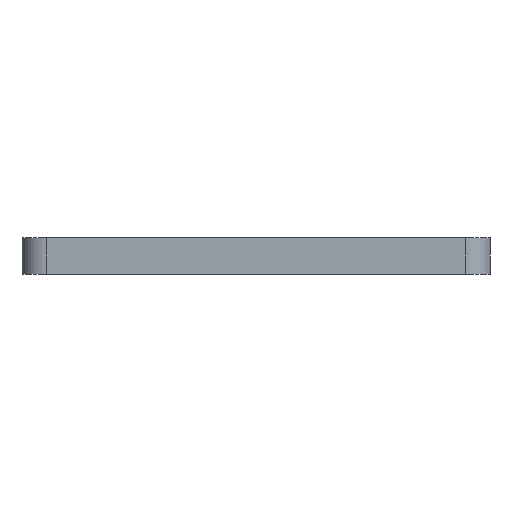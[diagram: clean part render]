
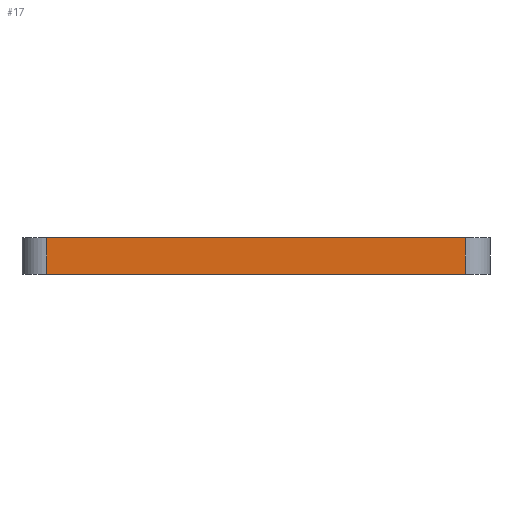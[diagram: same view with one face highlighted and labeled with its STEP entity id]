
A CAD part, left-side view. The second image highlights one B-rep face of the part: STEP entity #17.
In plain terms, the highlighted planar face has unit normal (-1, 0, 0).
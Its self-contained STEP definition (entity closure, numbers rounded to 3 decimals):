
#17 = ADVANCED_FACE('',(#18),#32,.F.);
#18 = FACE_BOUND('',#19,.F.);
#19 = EDGE_LOOP('',(#20,#55,#83,#111));
#20 = ORIENTED_EDGE('',*,*,#21,.F.);
#21 = EDGE_CURVE('',#22,#24,#26,.T.);
#22 = VERTEX_POINT('',#23);
#23 = CARTESIAN_POINT('',(-24.,-17.,3.));
#24 = VERTEX_POINT('',#25);
#25 = CARTESIAN_POINT('',(-24.,17.,3.));
#26 = SURFACE_CURVE('',#27,(#31,#43),.PCURVE_S1.);
#27 = LINE('',#28,#29);
#28 = CARTESIAN_POINT('',(-24.,-19.,3.));
#29 = VECTOR('',#30,1.);
#30 = DIRECTION('',(0.,1.,0.));
#31 = PCURVE('',#32,#37);
#32 = PLANE('',#33);
#33 = AXIS2_PLACEMENT_3D('',#34,#35,#36);
#34 = CARTESIAN_POINT('',(-24.,-19.,0.));
#35 = DIRECTION('',(1.,0.,0.));
#36 = DIRECTION('',(0.,0.,1.));
#37 = DEFINITIONAL_REPRESENTATION('',(#38),#42);
#38 = LINE('',#39,#40);
#39 = CARTESIAN_POINT('',(3.,0.));
#40 = VECTOR('',#41,1.);
#41 = DIRECTION('',(0.,-1.));
#42 = ( GEOMETRIC_REPRESENTATION_CONTEXT(2) 
PARAMETRIC_REPRESENTATION_CONTEXT() REPRESENTATION_CONTEXT('2D SPACE',''
  ) );
#43 = PCURVE('',#44,#49);
#44 = PLANE('',#45);
#45 = AXIS2_PLACEMENT_3D('',#46,#47,#48);
#46 = CARTESIAN_POINT('',(-24.,-19.,3.));
#47 = DIRECTION('',(0.,0.,1.));
#48 = DIRECTION('',(1.,0.,0.));
#49 = DEFINITIONAL_REPRESENTATION('',(#50),#54);
#50 = LINE('',#51,#52);
#51 = CARTESIAN_POINT('',(0.,0.));
#52 = VECTOR('',#53,1.);
#53 = DIRECTION('',(0.,1.));
#54 = ( GEOMETRIC_REPRESENTATION_CONTEXT(2) 
PARAMETRIC_REPRESENTATION_CONTEXT() REPRESENTATION_CONTEXT('2D SPACE',''
  ) );
#55 = ORIENTED_EDGE('',*,*,#56,.F.);
#56 = EDGE_CURVE('',#57,#22,#59,.T.);
#57 = VERTEX_POINT('',#58);
#58 = CARTESIAN_POINT('',(-24.,-17.,0.));
#59 = SURFACE_CURVE('',#60,(#64,#71),.PCURVE_S1.);
#60 = LINE('',#61,#62);
#61 = CARTESIAN_POINT('',(-24.,-17.,0.));
#62 = VECTOR('',#63,1.);
#63 = DIRECTION('',(0.,0.,1.));
#64 = PCURVE('',#32,#65);
#65 = DEFINITIONAL_REPRESENTATION('',(#66),#70);
#66 = LINE('',#67,#68);
#67 = CARTESIAN_POINT('',(0.,-2.));
#68 = VECTOR('',#69,1.);
#69 = DIRECTION('',(1.,0.));
#70 = ( GEOMETRIC_REPRESENTATION_CONTEXT(2) 
PARAMETRIC_REPRESENTATION_CONTEXT() REPRESENTATION_CONTEXT('2D SPACE',''
  ) );
#71 = PCURVE('',#72,#77);
#72 = CYLINDRICAL_SURFACE('',#73,2.);
#73 = AXIS2_PLACEMENT_3D('',#74,#75,#76);
#74 = CARTESIAN_POINT('',(-22.,-17.,0.));
#75 = DIRECTION('',(0.,0.,1.));
#76 = DIRECTION('',(-1.,-0.,0.));
#77 = DEFINITIONAL_REPRESENTATION('',(#78),#82);
#78 = LINE('',#79,#80);
#79 = CARTESIAN_POINT('',(0.,0.));
#80 = VECTOR('',#81,1.);
#81 = DIRECTION('',(0.,1.));
#82 = ( GEOMETRIC_REPRESENTATION_CONTEXT(2) 
PARAMETRIC_REPRESENTATION_CONTEXT() REPRESENTATION_CONTEXT('2D SPACE',''
  ) );
#83 = ORIENTED_EDGE('',*,*,#84,.T.);
#84 = EDGE_CURVE('',#57,#85,#87,.T.);
#85 = VERTEX_POINT('',#86);
#86 = CARTESIAN_POINT('',(-24.,17.,0.));
#87 = SURFACE_CURVE('',#88,(#92,#99),.PCURVE_S1.);
#88 = LINE('',#89,#90);
#89 = CARTESIAN_POINT('',(-24.,-19.,0.));
#90 = VECTOR('',#91,1.);
#91 = DIRECTION('',(0.,1.,0.));
#92 = PCURVE('',#32,#93);
#93 = DEFINITIONAL_REPRESENTATION('',(#94),#98);
#94 = LINE('',#95,#96);
#95 = CARTESIAN_POINT('',(0.,0.));
#96 = VECTOR('',#97,1.);
#97 = DIRECTION('',(0.,-1.));
#98 = ( GEOMETRIC_REPRESENTATION_CONTEXT(2) 
PARAMETRIC_REPRESENTATION_CONTEXT() REPRESENTATION_CONTEXT('2D SPACE',''
  ) );
#99 = PCURVE('',#100,#105);
#100 = PLANE('',#101);
#101 = AXIS2_PLACEMENT_3D('',#102,#103,#104);
#102 = CARTESIAN_POINT('',(-24.,-19.,0.));
#103 = DIRECTION('',(0.,0.,1.));
#104 = DIRECTION('',(1.,0.,0.));
#105 = DEFINITIONAL_REPRESENTATION('',(#106),#110);
#106 = LINE('',#107,#108);
#107 = CARTESIAN_POINT('',(0.,0.));
#108 = VECTOR('',#109,1.);
#109 = DIRECTION('',(0.,1.));
#110 = ( GEOMETRIC_REPRESENTATION_CONTEXT(2) 
PARAMETRIC_REPRESENTATION_CONTEXT() REPRESENTATION_CONTEXT('2D SPACE',''
  ) );
#111 = ORIENTED_EDGE('',*,*,#112,.T.);
#112 = EDGE_CURVE('',#85,#24,#113,.T.);
#113 = SURFACE_CURVE('',#114,(#118,#125),.PCURVE_S1.);
#114 = LINE('',#115,#116);
#115 = CARTESIAN_POINT('',(-24.,17.,0.));
#116 = VECTOR('',#117,1.);
#117 = DIRECTION('',(0.,0.,1.));
#118 = PCURVE('',#32,#119);
#119 = DEFINITIONAL_REPRESENTATION('',(#120),#124);
#120 = LINE('',#121,#122);
#121 = CARTESIAN_POINT('',(0.,-36.));
#122 = VECTOR('',#123,1.);
#123 = DIRECTION('',(1.,0.));
#124 = ( GEOMETRIC_REPRESENTATION_CONTEXT(2) 
PARAMETRIC_REPRESENTATION_CONTEXT() REPRESENTATION_CONTEXT('2D SPACE',''
  ) );
#125 = PCURVE('',#126,#131);
#126 = CYLINDRICAL_SURFACE('',#127,2.);
#127 = AXIS2_PLACEMENT_3D('',#128,#129,#130);
#128 = CARTESIAN_POINT('',(-22.,17.,0.));
#129 = DIRECTION('',(0.,0.,1.));
#130 = DIRECTION('',(-1.,-0.,0.));
#131 = DEFINITIONAL_REPRESENTATION('',(#132),#136);
#132 = LINE('',#133,#134);
#133 = CARTESIAN_POINT('',(-0.,0.));
#134 = VECTOR('',#135,1.);
#135 = DIRECTION('',(-0.,1.));
#136 = ( GEOMETRIC_REPRESENTATION_CONTEXT(2) 
PARAMETRIC_REPRESENTATION_CONTEXT() REPRESENTATION_CONTEXT('2D SPACE',''
  ) );
